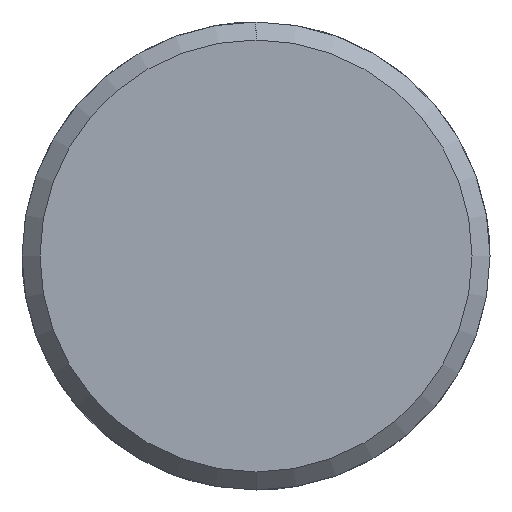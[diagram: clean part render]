
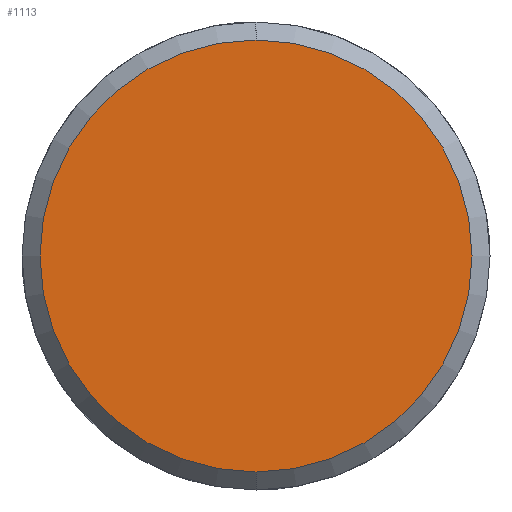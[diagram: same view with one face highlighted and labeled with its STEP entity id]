
A CAD part, left-side view. The second image highlights one B-rep face of the part: STEP entity #1113.
In plain terms, the highlighted planar face has unit normal (-1, 0, 0).
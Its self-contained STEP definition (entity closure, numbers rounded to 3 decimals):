
#1045=CARTESIAN_POINT('Vertex',(-5.,0.,-12.)) ;
#1048=CARTESIAN_POINT('Axis2P3D Location',(-5.,0.,0.)) ;
#1052=CARTESIAN_POINT('Vertex',(-5.,12.,0.)) ;
#1055=CARTESIAN_POINT('Axis2P3D Location',(-5.,0.,0.)) ;
#1059=CARTESIAN_POINT('Vertex',(-5.,0.,12.)) ;
#1081=CARTESIAN_POINT('Axis2P3D Location',(-5.,0.,0.)) ;
#1085=CARTESIAN_POINT('Vertex',(-5.,-12.,0.)) ;
#1088=CARTESIAN_POINT('Axis2P3D Location',(-5.,0.,0.)) ;
#1102=CARTESIAN_POINT('Axis2P3D Location',(-5.,0.,0.)) ;
#1049=DIRECTION('Axis2P3D Direction',(1.,0.,-0.)) ;
#1056=DIRECTION('Axis2P3D Direction',(1.,0.,-0.)) ;
#1082=DIRECTION('Axis2P3D Direction',(1.,0.,-0.)) ;
#1089=DIRECTION('Axis2P3D Direction',(1.,0.,-0.)) ;
#1103=DIRECTION('Axis2P3D Direction',(1.,0.,-0.)) ;
#1104=DIRECTION('Axis2P3D XDirection',(-0.,0.,-1.)) ;
#1050=AXIS2_PLACEMENT_3D('Circle Axis2P3D',#1048,#1049,$) ;
#1057=AXIS2_PLACEMENT_3D('Circle Axis2P3D',#1055,#1056,$) ;
#1083=AXIS2_PLACEMENT_3D('Circle Axis2P3D',#1081,#1082,$) ;
#1090=AXIS2_PLACEMENT_3D('Circle Axis2P3D',#1088,#1089,$) ;
#1105=AXIS2_PLACEMENT_3D('Plane Axis2P3D',#1102,#1103,#1104) ;
#1108=ORIENTED_EDGE('',*,*,#1054,.F.) ;
#1109=ORIENTED_EDGE('',*,*,#1092,.F.) ;
#1110=ORIENTED_EDGE('',*,*,#1087,.F.) ;
#1111=ORIENTED_EDGE('',*,*,#1061,.F.) ;
#1113=ADVANCED_FACE('351-16X96X140',(#1112),#1106,.F.) ;
#1051=CIRCLE('generated circle',#1050,12.) ;
#1058=CIRCLE('generated circle',#1057,12.) ;
#1084=CIRCLE('generated circle',#1083,12.) ;
#1091=CIRCLE('generated circle',#1090,12.) ;
#1054=EDGE_CURVE('',#1046,#1053,#1051,.T.) ;
#1061=EDGE_CURVE('',#1053,#1060,#1058,.T.) ;
#1087=EDGE_CURVE('',#1060,#1086,#1084,.T.) ;
#1092=EDGE_CURVE('',#1086,#1046,#1091,.T.) ;
#1107=EDGE_LOOP('',(#1108,#1109,#1110,#1111)) ;
#1112=FACE_OUTER_BOUND('',#1107,.T.) ;
#1106=PLANE('Plane',#1105) ;
#1046=VERTEX_POINT('',#1045) ;
#1053=VERTEX_POINT('',#1052) ;
#1060=VERTEX_POINT('',#1059) ;
#1086=VERTEX_POINT('',#1085) ;
